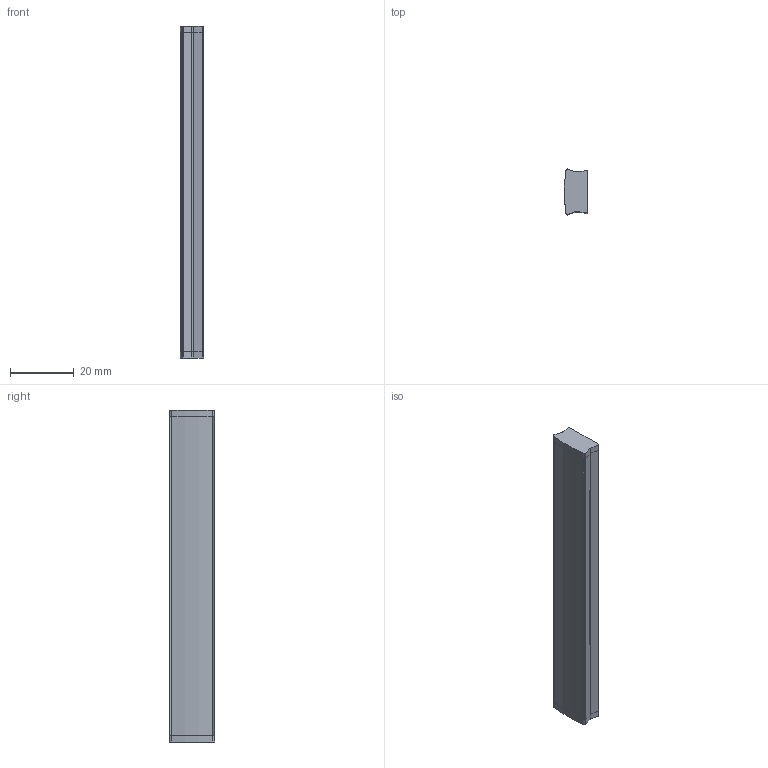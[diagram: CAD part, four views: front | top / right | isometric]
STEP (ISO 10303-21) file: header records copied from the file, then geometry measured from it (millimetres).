
FILE_DESCRIPTION(/* description */ ('GTV-137 LED profile applied mini'),/* implementation_level */ '2;1');
FILE_NAME(/* name */ 'D:\$Workingspace\Designs\Profile\137 - Profil LED nakładany mały\standard 137.stp',/* time_stamp */ '2017-12-19T15:04:39+01:00',/* author */ ('tomaszw'),/* organization */ (''),/* preprocessor_version */ 'ST-DEVELOPER v16.1',/* originating_system */ 'Autodesk Inventor 2016',/* authorisation */ '');
FILE_SCHEMA (('CONFIG_CONTROL_DESIGN'));
Length unit declared in the file: millimetre
Products named in the file (4): 137 - Profil LED nakładany mały  
ver2-02; Mini Cover for LED Rails-01; Zaślepka profil led nakładany ma\X2\0142
\X0\y; 3 wersje złożen na targi 2018
Assembly tree (4 placements, depth 2):
  3 wersje złożen na targi 2018
    137 - Profil LED nakładany mały  
ver2-02
    Mini Cover for LED Rails-01
    Zaślepka profil led nakładany ma\X2\0142
\X0\y  x2
Bounding box: 7.22 x 14.24 x 104 mm (x, y, z)
Volume: 4843.1 mm3; surface area: 9816.4 mm2
Topology: 4 solids, 4 shells, 242 faces, 586 edges, 356 vertices
Faces by surface type: cylinder 101, plane 77, bspline 32, sphere 24, torus 4, cone 4
Entity records: 5027 total; most frequent: CARTESIAN_POINT 1210, DIRECTION 811, ORIENTED_EDGE 754, EDGE_CURVE 377, AXIS2_PLACEMENT_3D 307, VERTEX_POINT 234, LINE 197, VECTOR 197
